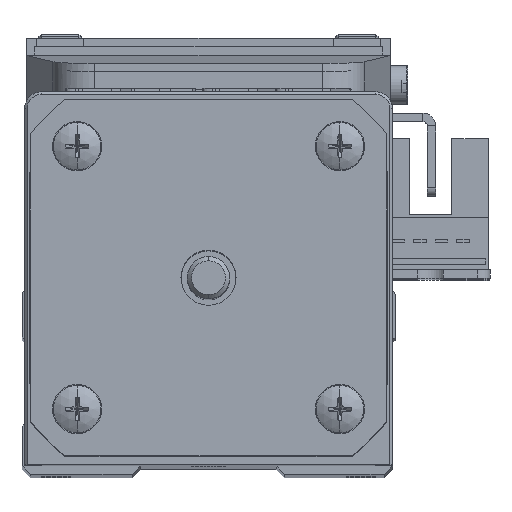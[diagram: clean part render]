
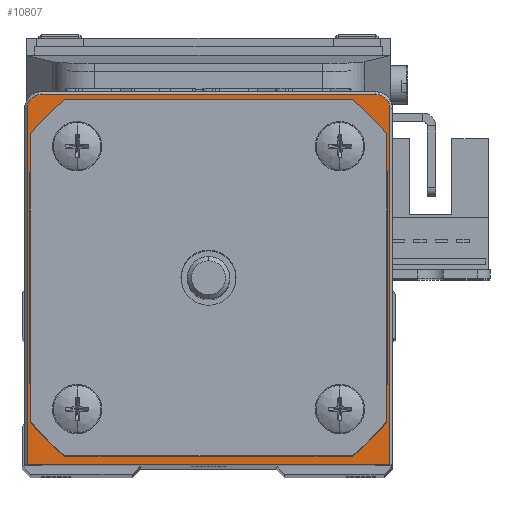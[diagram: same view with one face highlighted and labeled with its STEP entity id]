
A CAD part, top view. The second image highlights one B-rep face of the part: STEP entity #10807.
In plain terms, the highlighted planar face has unit normal (0, 0, 1).
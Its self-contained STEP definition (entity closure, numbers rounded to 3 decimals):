
#915 = CARTESIAN_POINT ( 'NONE',  ( 0., 0., 26.5 ) ) ;
#958 = AXIS2_PLACEMENT_3D ( 'NONE', #45461, #10879, #34064 ) ;
#1320 = DIRECTION ( 'NONE',  ( -1., 0., 0. ) ) ;
#1802 = VERTEX_POINT ( 'NONE', #38659 ) ;
#2975 = DIRECTION ( 'NONE',  ( 1., 0., 0. ) ) ;
#3729 = DIRECTION ( 'NONE',  ( 1., 0., 0. ) ) ;
#4076 = LINE ( 'NONE', #27276, #32408 ) ;
#5001 = AXIS2_PLACEMENT_3D ( 'NONE', #915, #24119, #47274 ) ;
#6169 = CIRCLE ( 'NONE', #48665, 10. ) ;
#8060 = ORIENTED_EDGE ( 'NONE', *, *, #74820, .T. ) ;
#9052 = EDGE_CURVE ( 'NONE', #30732, #74999, #37810, .T. ) ;
#9320 = CARTESIAN_POINT ( 'NONE',  ( 10., 0., 26.5 ) ) ;
#10221 = DIRECTION ( 'NONE',  ( 0., 1., 0. ) ) ;
#10605 = VERTEX_POINT ( 'NONE', #73136 ) ;
#10807 = ADVANCED_FACE ( 'NONE', ( #46835, #70040 ), #17952, .T. ) ;
#10879 = DIRECTION ( 'NONE',  ( 0., 0., 1. ) ) ;
#12277 = DIRECTION ( 'NONE',  ( 1., 0., 0. ) ) ;
#13560 = ORIENTED_EDGE ( 'NONE', *, *, #9052, .F. ) ;
#13690 = EDGE_LOOP ( 'NONE', ( #33928, #8060, #47229, #14923, #42091, #59970 ) ) ;
#14424 = CIRCLE ( 'NONE', #66626, 1.7 ) ;
#14774 = VERTEX_POINT ( 'NONE', #23405 ) ;
#14923 = ORIENTED_EDGE ( 'NONE', *, *, #29264, .T. ) ;
#16861 = DIRECTION ( 'NONE',  ( 0., 0., 1. ) ) ;
#17952 = PLANE ( 'NONE',  #38091 ) ;
#19096 = CARTESIAN_POINT ( 'NONE',  ( 19.7, 21.7, 26.5 ) ) ;
#23405 = CARTESIAN_POINT ( 'NONE',  ( 21.4, 20., 26.5 ) ) ;
#24026 = EDGE_CURVE ( 'NONE', #1802, #34090, #33752, .T. ) ;
#24119 = DIRECTION ( 'NONE',  ( 0., 0., 1. ) ) ;
#25362 = VECTOR ( 'NONE', #10221, 1000. ) ;
#26764 = EDGE_LOOP ( 'NONE', ( #61257, #13560 ) ) ;
#27076 = VECTOR ( 'NONE', #2975, 1000. ) ;
#27276 = CARTESIAN_POINT ( 'NONE',  ( -21.4, -22., 26.5 ) ) ;
#29264 = EDGE_CURVE ( 'NONE', #31022, #1802, #30225, .T. ) ;
#30225 = LINE ( 'NONE', #53383, #49885 ) ;
#30732 = VERTEX_POINT ( 'NONE', #9320 ) ;
#31022 = VERTEX_POINT ( 'NONE', #19096 ) ;
#31879 = LINE ( 'NONE', #55042, #27076 ) ;
#32408 = VECTOR ( 'NONE', #50439, 1000. ) ;
#32631 = CARTESIAN_POINT ( 'NONE',  ( 0., 0., 26.5 ) ) ;
#33752 = CIRCLE ( 'NONE', #958, 1.7 ) ;
#33928 = ORIENTED_EDGE ( 'NONE', *, *, #54786, .T. ) ;
#34064 = DIRECTION ( 'NONE',  ( 1., 0., 0. ) ) ;
#34090 = VERTEX_POINT ( 'NONE', #49137 ) ;
#34570 = EDGE_CURVE ( 'NONE', #34090, #10605, #4076, .T. ) ;
#37810 = CIRCLE ( 'NONE', #5001, 10. ) ;
#38091 = AXIS2_PLACEMENT_3D ( 'NONE', #41140, #64331, #12277 ) ;
#38659 = CARTESIAN_POINT ( 'NONE',  ( -19.7, 21.7, 26.5 ) ) ;
#39091 = LINE ( 'NONE', #62291, #25362 ) ;
#40052 = DIRECTION ( 'NONE',  ( 1., 0., 0. ) ) ;
#41140 = CARTESIAN_POINT ( 'NONE',  ( 0., 0., 26.5 ) ) ;
#42091 = ORIENTED_EDGE ( 'NONE', *, *, #24026, .T. ) ;
#43122 = CARTESIAN_POINT ( 'NONE',  ( -10., 0., 26.5 ) ) ;
#45461 = CARTESIAN_POINT ( 'NONE',  ( -19.7, 20., 26.5 ) ) ;
#46835 = FACE_OUTER_BOUND ( 'NONE', #13690, .T. ) ;
#47229 = ORIENTED_EDGE ( 'NONE', *, *, #50519, .T. ) ;
#47274 = DIRECTION ( 'NONE',  ( 1., 0., 0. ) ) ;
#48665 = AXIS2_PLACEMENT_3D ( 'NONE', #32631, #55789, #3729 ) ;
#49137 = CARTESIAN_POINT ( 'NONE',  ( -21.4, 20., 26.5 ) ) ;
#49885 = VECTOR ( 'NONE', #1320, 1000. ) ;
#50439 = DIRECTION ( 'NONE',  ( 0., -1., 0. ) ) ;
#50519 = EDGE_CURVE ( 'NONE', #14774, #31022, #14424, .T. ) ;
#52999 = VERTEX_POINT ( 'NONE', #72241 ) ;
#53383 = CARTESIAN_POINT ( 'NONE',  ( -19.7, 21.7, 26.5 ) ) ;
#54786 = EDGE_CURVE ( 'NONE', #10605, #52999, #31879, .T. ) ;
#55042 = CARTESIAN_POINT ( 'NONE',  ( -21.7, -22., 26.5 ) ) ;
#55789 = DIRECTION ( 'NONE',  ( 0., 0., 1. ) ) ;
#59970 = ORIENTED_EDGE ( 'NONE', *, *, #34570, .T. ) ;
#60471 = EDGE_CURVE ( 'NONE', #74999, #30732, #6169, .T. ) ;
#61257 = ORIENTED_EDGE ( 'NONE', *, *, #60471, .F. ) ;
#62291 = CARTESIAN_POINT ( 'NONE',  ( 21.4, 20., 26.5 ) ) ;
#64331 = DIRECTION ( 'NONE',  ( 0., 0., 1. ) ) ;
#66626 = AXIS2_PLACEMENT_3D ( 'NONE', #68952, #16861, #40052 ) ;
#68952 = CARTESIAN_POINT ( 'NONE',  ( 19.7, 20., 26.5 ) ) ;
#70040 = FACE_BOUND ( 'NONE', #26764, .T. ) ;
#72241 = CARTESIAN_POINT ( 'NONE',  ( 21.4, -22., 26.5 ) ) ;
#73136 = CARTESIAN_POINT ( 'NONE',  ( -21.4, -22., 26.5 ) ) ;
#74820 = EDGE_CURVE ( 'NONE', #52999, #14774, #39091, .T. ) ;
#74999 = VERTEX_POINT ( 'NONE', #43122 ) ;
